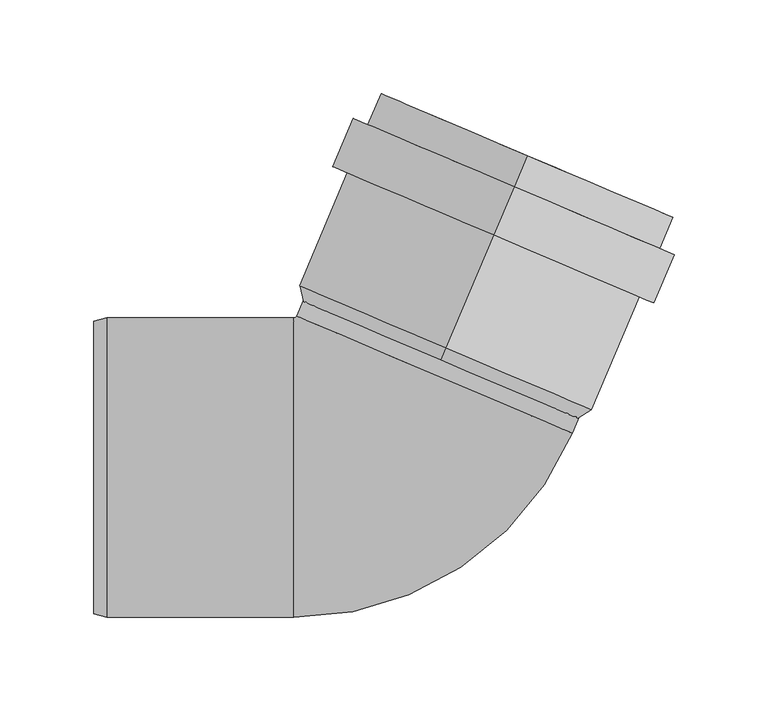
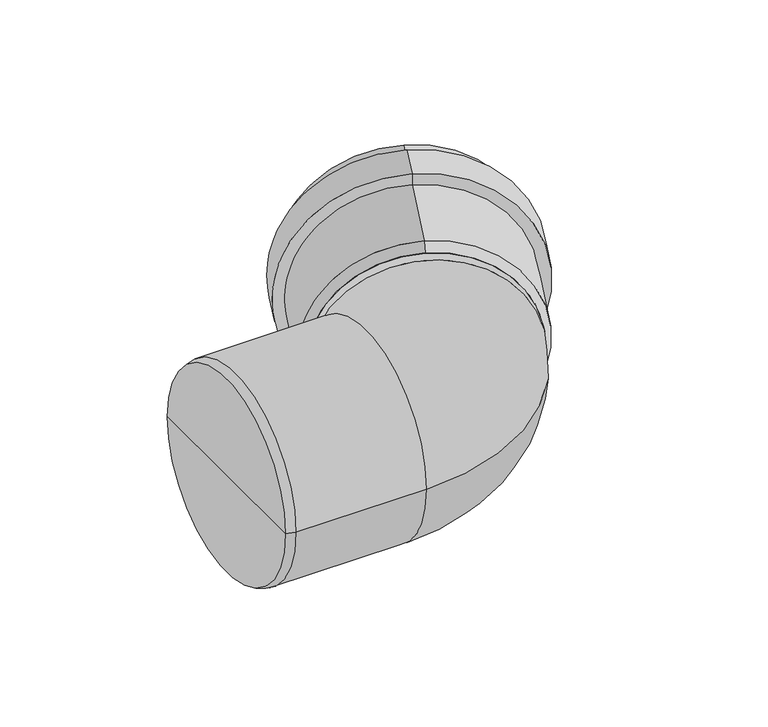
"""IFC4 building model written with IfcOpenShell, lengths in millimetres: pipe fitting geometry, OSMA_KG2000_PPKGB : Koleno 67°."""

from ifc_helpers import new_model, si_unit, point, frame, origin, place, context, project, spatial, polyline, circle_curve, ellipse_curve, trimmed, source, transform, mapped, element, save
from ifc_brep_helpers import plane_surface, cylinder_surface, revolved_surface, advanced_brep


def pipe_fitting_585cb31f(model_context):
    return source(origin(), model_context, "Body", "AdvancedBrep", [
        advanced_brep(
        [(27.1558134, 63.9750873, 80.0), (27.1558134, 63.9750873, -80.0), (70.7223343, 166.6113785, -80.0), (70.7223343, 166.6113785, 80.0), (52.7487023, 124.2681552, 84.9), (52.7487023, 124.2681552, -84.9), (27.1558134, 63.9750873, -84.9), (27.1558134, 63.9750873, 84.9), (52.7487023, 124.2681552, 93.5), (52.7487023, 124.2681552, -93.5), (63.6891739, 150.0422911, 93.5), (63.6891739, 150.0422911, -93.5), (63.6891739, 150.0422911, 84.9), (63.6891739, 150.0422911, -84.9), (70.7223343, 166.6113785, 84.9), (70.7223343, 166.6113785, -84.9), (24.4206955, 57.5315533, 75.1), (24.4206955, 57.5315533, -75.1), (24.4206955, 57.5315533, 80.0), (24.4206955, 57.5315533, -80.0)],
        [
            (0, 1, circle_curve(frame((27.1558134, 63.9750873, 0.0), z_axis=(-0.39073112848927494, -0.9205048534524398, 0.0), x_axis=(0.0, 0.0, -1.0)), 80.0)),
            (1, 2),
            (2, 3, circle_curve(frame((70.7223343, 166.6113785, 0.0), z_axis=(0.39073112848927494, 0.9205048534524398, 0.0), x_axis=(0.0, 0.0, -1.0)), 80.0)),
            (3, 0),
            (1, 0, circle_curve(frame((27.1558134, 63.9750873, 0.0), z_axis=(-0.39073112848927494, -0.9205048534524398, 0.0), x_axis=(0.0, 0.0, -1.0)), 80.0)),
            (3, 2, circle_curve(frame((70.7223343, 166.6113785, 0.0), z_axis=(0.39073112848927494, 0.9205048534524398, 0.0), x_axis=(0.0, 0.0, -1.0)), 80.0)),
            (4, 5, circle_curve(frame((52.7487023, 124.2681552, 0.0), z_axis=(-0.39073112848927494, -0.9205048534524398, 0.0), x_axis=(0.0, 0.0, -1.0)), 84.9)),
            (5, 6),
            (6, 7, circle_curve(frame((27.1558134, 63.9750873, 0.0), z_axis=(0.39073112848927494, 0.9205048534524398, 0.0), x_axis=(0.0, 0.0, -1.0)), 84.9)),
            (7, 4),
            (5, 4, circle_curve(frame((52.7487023, 124.2681552, 0.0), z_axis=(-0.39073112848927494, -0.9205048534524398, 0.0), x_axis=(0.0, 0.0, -1.0)), 84.9)),
            (7, 6, circle_curve(frame((27.1558134, 63.9750873, 0.0), z_axis=(0.39073112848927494, 0.9205048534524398, 0.0), x_axis=(0.0, 0.0, -1.0)), 84.9)),
            (8, 9, circle_curve(frame((52.7487023, 124.2681552, 0.0), z_axis=(-0.39073112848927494, -0.9205048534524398, 0.0), x_axis=(0.0, 0.0, -1.0)), 93.5)),
            (9, 5),
            (4, 8),
            (9, 8, circle_curve(frame((52.7487023, 124.2681552, 0.0), z_axis=(-0.39073112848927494, -0.9205048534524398, 0.0), x_axis=(0.0, 0.0, -1.0)), 93.5)),
            (10, 11, circle_curve(frame((63.6891739, 150.0422911, 0.0), z_axis=(-0.39073112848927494, -0.9205048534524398, 0.0), x_axis=(0.0, 0.0, -1.0)), 93.5)),
            (11, 9),
            (8, 10),
            (11, 10, circle_curve(frame((63.6891739, 150.0422911, 0.0), z_axis=(-0.39073112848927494, -0.9205048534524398, 0.0), x_axis=(0.0, 0.0, -1.0)), 93.5)),
            (12, 13, circle_curve(frame((63.6891739, 150.0422911, 0.0), z_axis=(-0.39073112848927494, -0.9205048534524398, 0.0), x_axis=(0.0, 0.0, -1.0)), 84.9)),
            (13, 11),
            (10, 12),
            (13, 12, circle_curve(frame((63.6891739, 150.0422911, 0.0), z_axis=(-0.39073112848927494, -0.9205048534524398, 0.0), x_axis=(0.0, 0.0, -1.0)), 84.9)),
            (14, 15, circle_curve(frame((70.7223343, 166.6113785, 0.0), z_axis=(-0.39073112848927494, -0.9205048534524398, 0.0), x_axis=(0.0, 0.0, -1.0)), 84.9)),
            (15, 13),
            (12, 14),
            (15, 14, circle_curve(frame((70.7223343, 166.6113785, 0.0), z_axis=(-0.39073112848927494, -0.9205048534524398, 0.0), x_axis=(0.0, 0.0, -1.0)), 84.9)),
            (2, 15),
            (14, 3),
            (16, 17, circle_curve(frame((24.4206955, 57.5315533, 0.0), z_axis=(-0.39073112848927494, -0.9205048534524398, 0.0), x_axis=(0.0, 0.0, -1.0)), 75.1)),
            (17, 1),
            (0, 16),
            (17, 16, circle_curve(frame((24.4206955, 57.5315533, 0.0), z_axis=(-0.39073112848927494, -0.9205048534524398, 0.0), x_axis=(0.0, 0.0, -1.0)), 75.1)),
            (18, 19, circle_curve(frame((24.4206955, 57.5315533, 0.0), z_axis=(-0.39073112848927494, -0.9205048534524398, 0.0), x_axis=(0.0, 0.0, -1.0)), 80.0)),
            (19, 17),
            (16, 18),
            (19, 18, circle_curve(frame((24.4206955, 57.5315533, 0.0), z_axis=(-0.39073112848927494, -0.9205048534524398, 0.0), x_axis=(0.0, 0.0, -1.0)), 80.0)),
            (6, 19),
            (18, 7),
        ],
        [
            revolved_surface(polyline([(70.72233423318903, 166.61137852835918, -80.0), (27.15581338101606, 63.97508730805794, -80.0)]), (1113.7690086, 2623.875354, 0.0), (0.39073112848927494, 0.9205048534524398, 0.0)),
            cylinder_surface(frame((1113.7690086, 2623.875354, 0.0), z_axis=(0.39073112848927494, 0.9205048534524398, 0.0), x_axis=(0.0, 0.0, -1.0)), 84.9),
            plane_surface(frame((52.7487023, 124.2681552, 0.0), z_axis=(-0.39073112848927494, -0.9205048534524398, 0.0), x_axis=(0.0, 0.0, -1.0))),
            cylinder_surface(frame((1113.7690086, 2623.875354, 0.0), z_axis=(0.39073112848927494, 0.9205048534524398, 0.0), x_axis=(0.0, 0.0, -1.0)), 93.5),
            plane_surface(frame((63.6891739, 150.0422911, 0.0), z_axis=(0.39073112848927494, 0.9205048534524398, 0.0), x_axis=(0.0, 0.0, -1.0))),
            plane_surface(frame((70.7223343, 166.6113785, 0.0), z_axis=(0.39073112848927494, 0.9205048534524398, 0.0), x_axis=(0.0, 0.0, -1.0))),
            revolved_surface(polyline([(27.1558134, 63.9750873, -80.0), (24.4206955, 57.5315533, -75.1)]), (1113.7690086, 2623.875354, 0.0), (0.39073112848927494, 0.9205048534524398, 0.0)),
            plane_surface(frame((24.4206955, 57.5315533, 0.0), z_axis=(-0.39073112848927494, -0.9205048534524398, 0.0), x_axis=(0.0, 0.0, -1.0))),
            revolved_surface(polyline([(24.4206955, 57.5315533, -80.0), (27.1558134, 63.9750873, -84.9)]), (1113.7690086, 2623.875354, 0.0), (0.39073112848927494, 0.9205048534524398, 0.0)),
        ],
        [
            (0, [[1, 2, 3, 4]]),
            (0, [[5, -4, 6, -2]]),
            (1, [[7, 8, 9, 10]]),
            (1, [[11, -10, 12, -8]]),
            (2, [[13, 14, -7, 15]]),
            (2, [[16, -15, -11, -14]]),
            (3, [[17, 18, -13, 19]]),
            (3, [[20, -19, -16, -18]]),
            (4, [[21, 22, -17, 23]]),
            (4, [[24, -23, -20, -22]]),
            (1, [[25, 26, -21, 27]]),
            (1, [[28, -27, -24, -26]]),
            (5, [[-3, 29, -25, 30]]),
            (5, [[-6, -30, -28, -29]]),
            (6, [[31, 32, -1, 33]]),
            (6, [[34, -33, -5, -32]]),
            (7, [[35, 36, -31, 37]]),
            (7, [[38, -37, -34, -36]]),
            (8, [[-9, 39, -35, 40]]),
            (8, [[-12, -40, -38, -39]]),
        ],
    ),
        advanced_brep(
        [(-52.562916, 80.9139033, 0.0), (-53.9436732, 80.0, 0.0), (-53.9436732, -80.0, 0.0), (94.7178606, 18.3969227, 0.0), (21.0774723, 49.655413, 80.0), (21.0774723, 49.655413, -80.0), (-161.0, 0.0, 0.0), (-161.0, 78.1243556, 0.0), (-161.0, -78.1243556, 0.0), (-154.0, 80.0, 0.0), (-154.0, -80.0, 0.0), (100.6008361, 32.2563446, 0.0), (-46.6799404, 94.7733252, 0.0)],
        [
            (0, 1, circle_curve(frame((-53.9436732, 81.5, 0.0), z_axis=(0.0, 0.0, -1.0), x_axis=(0.0, -1.0, 0.0)), 1.5)),
            (1, 2, circle_curve(frame((-53.9436732, 0.0, 0.0), z_axis=(1.0, 0.0, 0.0), x_axis=(0.0, 1.0, 0.0)), 80.0)),
            (2, 3, circle_curve(frame((-53.9436732, 81.5, 0.0), z_axis=(0.0, 0.0, 1.0), x_axis=(0.0, -1.0, 0.0)), 161.5)),
            (3, 4, circle_curve(frame((21.0774723, 49.655413, 0.0), z_axis=(-0.3907311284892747, -0.9205048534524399, 0.0), x_axis=(-0.9205048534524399, 0.3907311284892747, 0.0)), 80.0)),
            (4, 0, circle_curve(frame((21.0774723, 49.655413, 0.0), z_axis=(-0.3907311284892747, -0.9205048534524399, 0.0), x_axis=(-0.9205048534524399, 0.3907311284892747, 0.0)), 80.0)),
            (0, 5, circle_curve(frame((21.0774723, 49.655413, 0.0), z_axis=(-0.3907311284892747, -0.9205048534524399, 0.0), x_axis=(-0.9205048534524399, 0.3907311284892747, 0.0)), 80.0)),
            (5, 3, circle_curve(frame((21.0774723, 49.655413, 0.0), z_axis=(-0.3907311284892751, -0.9205048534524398, 0.0), x_axis=(-0.9205048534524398, 0.3907311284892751, 0.0)), 80.0)),
            (2, 1, circle_curve(frame((-53.9436732, 0.0, 0.0), z_axis=(1.0, 0.0, 0.0), x_axis=(0.0, 1.0, 0.0)), 80.0)),
            (6, 7),
            (7, 8, circle_curve(frame((-161.0, 0.0, 0.0), z_axis=(-1.0, 0.0, 0.0), x_axis=(0.0, 1.0, 0.0)), 78.1243556)),
            (8, 6),
            (8, 7, circle_curve(frame((-161.0, 0.0, 0.0), z_axis=(-1.0, 0.0, 0.0), x_axis=(0.0, 1.0, 0.0)), 78.1243556)),
            (7, 9),
            (9, 10, circle_curve(frame((-154.0, 0.0, 0.0), z_axis=(-1.0, 0.0, 0.0), x_axis=(0.0, 1.0, 0.0)), 80.0)),
            (10, 8),
            (10, 9, circle_curve(frame((-154.0, 0.0, 0.0), z_axis=(-1.0, 0.0, 0.0), x_axis=(0.0, 1.0, 0.0)), 80.0)),
            (9, 1),
            (2, 10),
            (11, 12, circle_curve(frame((26.9604479, 63.5148349, 0.0), z_axis=(0.3907311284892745, 0.9205048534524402, 0.0), x_axis=(-0.9205048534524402, 0.3907311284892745, 0.0)), 80.0)),
            (12, 11, circle_curve(frame((26.9604479, 63.5148349, 0.0), z_axis=(0.3907311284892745, 0.9205048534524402, 0.0), x_axis=(-0.9205048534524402, 0.3907311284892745, 0.0)), 80.0)),
            (12, 0),
            (3, 11),
        ],
        [
            revolved_surface(trimmed(ellipse_curve(frame((-53.9436732, 0.0, 0.0), z_axis=(-1.0, 0.0, 0.0), x_axis=(0.0, 1.0, 0.0)), 80.0, 80.0), [point((-53.9436732, -80.0, 0.0))], [point((-53.9436732, 80.0, 0.0))], True, "CARTESIAN"), (-53.9436732, 81.5, 0.0), (0.0, 0.0, 1.0)),
            revolved_surface(trimmed(ellipse_curve(frame((-53.9436732, 0.0, 0.0), z_axis=(-1.0, 0.0, 0.0), x_axis=(0.0, 1.0, 0.0)), 80.0, 80.0), [point((-53.9436732, 80.0, 0.0))], [point((-53.9436732, -80.0, 0.0))], True, "CARTESIAN"), (-53.9436732, 81.5, 0.0), (0.0, 0.0, 1.0)),
            plane_surface(frame((-161.0, 0.0, 0.0), z_axis=(-1.0, 0.0, 0.0), x_axis=(0.0, 1.0, 0.0))),
            revolved_surface(polyline([(-154.0, 80.0, 0.0), (-161.0, 78.1243556, 0.0)]), (331.0587718, 0.0, 0.0), (-1.0, 0.0, 0.0)),
            cylinder_surface(frame((331.0587718, 0.0, 0.0), z_axis=(-1.0, 0.0, 0.0), x_axis=(0.0, 1.0, 0.0)), 80.0),
            plane_surface(frame((26.9604479, 63.5148349, 0.0), z_axis=(0.3907311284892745, 0.9205048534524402, 0.0), x_axis=(0.0, 0.0, 1.0))),
            cylinder_surface(frame((21.0774723, 49.655413, 0.0), z_axis=(-0.3907311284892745, -0.9205048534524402, 0.0), x_axis=(-0.9205048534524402, 0.3907311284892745, 0.0)), 80.0),
        ],
        [
            (0, [[1, 2, 3, 4, 5]]),
            (1, [[-1, 6, 7, -3, 8]]),
            (2, [[9, 10, 11]]),
            (2, [[-9, -11, 12]]),
            (3, [[-10, 13, 14, 15]]),
            (3, [[-12, -15, 16, -13]]),
            (4, [[-14, 17, -8, 18]]),
            (4, [[-16, -18, -2, -17]]),
            (5, [[19, 20]]),
            (6, [[-20, 21, -5, -4, 22]]),
            (6, [[-19, -22, -7, -6, -21]]),
        ],
    ),
    ])


if __name__ == "__main__":
    model = new_model("IFC4")
    model_context = context("Model", 3, world=origin())
    ifc_project = project(units=[si_unit("LENGTHUNIT", "METRE", prefix="MILLI")], contexts=[model_context])
    site = spatial("IfcSite", under=ifc_project)
    building = spatial("IfcBuilding", under=site)
    placement = place(None, origin())
    pipe_fitting_shape = pipe_fitting_585cb31f(model_context)
    element("IfcPipeFitting", 1, ObjectType="OSMA_KG2000_PPKGB : Koleno 67°", at=placement, inside=building, context=model_context, shape_type="MappedRepresentation", body=[
        mapped(pipe_fitting_shape, transform((0.0, 0.0, 0.0), x_axis=(1.0, 0.0, 0.0), y_axis=(0.0, 1.0, 0.0), z_axis=(0.0, 0.0, 1.0))),
    ])
    save(model, "model.ifc")
